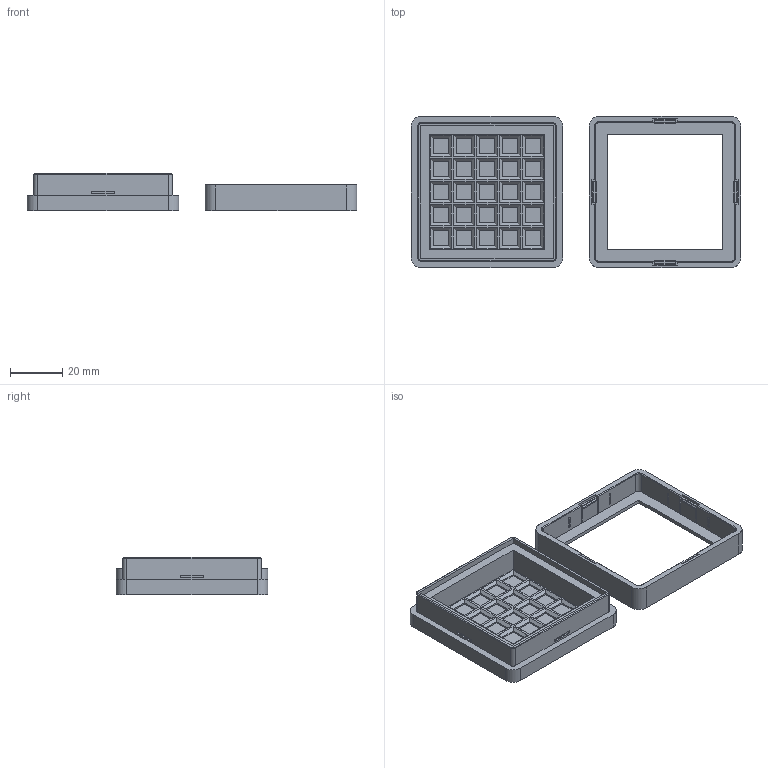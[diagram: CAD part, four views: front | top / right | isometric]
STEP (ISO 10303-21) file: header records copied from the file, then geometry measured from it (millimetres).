
FILE_DESCRIPTION(('FreeCAD Model'),'2;1');
FILE_NAME('Open CASCADE Shape Model','2026-10-03T15:52:23',('Author'),( ''),'Open CASCADE STEP processor 7.8','FreeCAD','Unknown');
FILE_SCHEMA(('AUTOMOTIVE_DESIGN { 1 0 10303 214 1 1 1 1 }'));
Length unit declared in the file: millimetre
Products named in the file (3): HiddenLock_Print_Layout; Base; Lid
Assembly tree (2 placements, depth 2):
  HiddenLock_Print_Layout
    Base
    Lid
Bounding box: 126 x 58 x 14.2 mm (x, y, z)
Volume: 24341 mm3; surface area: 20100.1 mm2
Topology: 2 solids, 2 shells, 558 faces, 1332 edges, 844 vertices
Faces by surface type: bspline 558
Entity records: 15244 total; most frequent: CARTESIAN_POINT 6727, ORIENTED_EDGE 2664, EDGE_CURVE 1332, B_SPLINE_CURVE_WITH_KNOTS 1284, VERTEX_POINT 844, FACE_BOUND 626, EDGE_LOOP 626, ADVANCED_FACE 558
